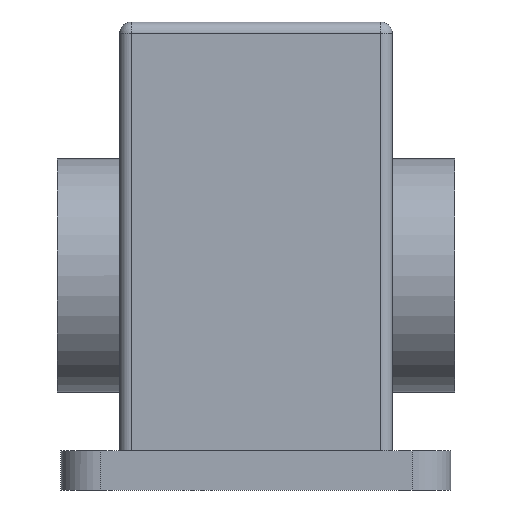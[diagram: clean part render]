
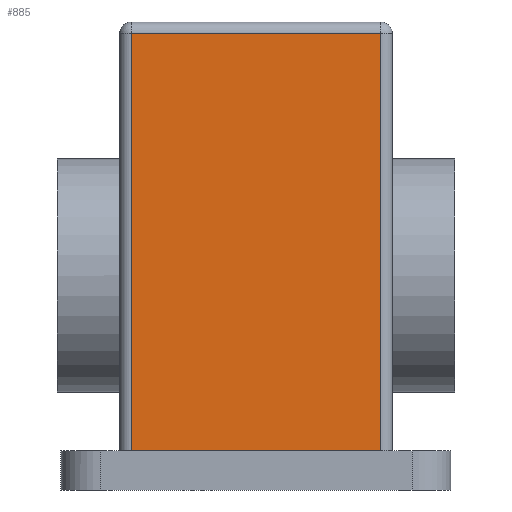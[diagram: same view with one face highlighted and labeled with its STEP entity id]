
A CAD part, front view. The second image highlights one B-rep face of the part: STEP entity #885.
In plain terms, the highlighted planar face has unit normal (0, -1, 0).
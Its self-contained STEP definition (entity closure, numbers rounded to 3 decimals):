
#21=PLANE($,#997);
#61=LINE($,#1483,#109);
#67=LINE($,#1504,#115);
#68=LINE($,#1508,#116);
#69=LINE($,#1509,#117);
#109=VECTOR($,#1208,64.);
#115=VECTOR($,#1234,107.);
#116=VECTOR($,#1239,107.);
#117=VECTOR($,#1240,64.);
#250=FACE_OUTER_BOUND($,#325,.T.);
#325=EDGE_LOOP($,(#736,#737,#738,#739));
#489=VERTEX_POINT($,#1480);
#490=VERTEX_POINT($,#1482);
#495=VERTEX_POINT($,#1503);
#496=VERTEX_POINT($,#1507);
#580=EDGE_CURVE($,#489,#490,#61,.T.);
#591=EDGE_CURVE($,#490,#495,#67,.T.);
#593=EDGE_CURVE($,#496,#489,#68,.T.);
#594=EDGE_CURVE($,#495,#496,#69,.T.);
#736=ORIENTED_EDGE($,*,*,#580,.F.);
#737=ORIENTED_EDGE($,*,*,#593,.F.);
#738=ORIENTED_EDGE($,*,*,#594,.F.);
#739=ORIENTED_EDGE($,*,*,#591,.F.);
#885=ADVANCED_FACE($,(#250),#21,.T.);
#997=AXIS2_PLACEMENT_3D($,#1506,#1237,#1238);
#1208=DIRECTION($,(1.,0.,0.));
#1234=DIRECTION($,(0.,0.,-1.));
#1237=DIRECTION('center_axis',(0.,-1.,0.));
#1238=DIRECTION('ref_axis',(1.,0.,0.));
#1239=DIRECTION($,(0.,0.,1.));
#1240=DIRECTION($,(-1.,0.,0.));
#1480=CARTESIAN_POINT('',(-32.,-35.,117.));
#1482=CARTESIAN_POINT('',(32.,-35.,117.));
#1483=CARTESIAN_POINT($,(-17.5,-35.,117.));
#1503=CARTESIAN_POINT('',(32.,-35.,10.));
#1504=CARTESIAN_POINT($,(32.,-35.,10.));
#1506=CARTESIAN_POINT('Origin',(-35.,-35.,10.));
#1507=CARTESIAN_POINT('',(-32.,-35.,10.));
#1508=CARTESIAN_POINT($,(-32.,-35.,10.));
#1509=CARTESIAN_POINT($,(-17.5,-35.,10.));
